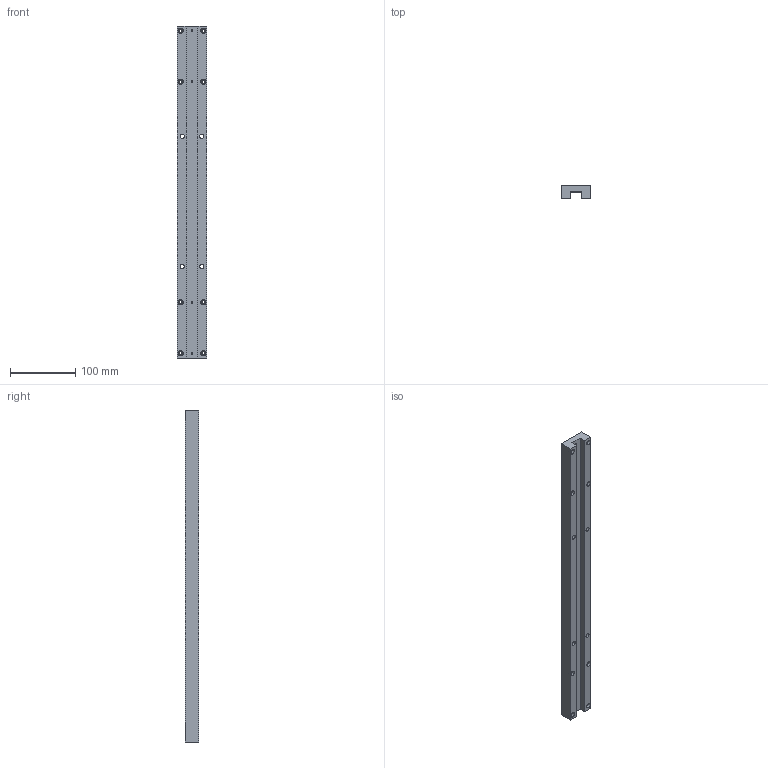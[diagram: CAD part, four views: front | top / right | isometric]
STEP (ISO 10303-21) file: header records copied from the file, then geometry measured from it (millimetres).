
FILE_DESCRIPTION (( 'STEP AP214' ), '1' );
FILE_NAME ('Montageschiene.STEP', '2006-10-26T10:16:42', ( 'Bauer' ), ( 'Micro-Epsilon Optronic' ), 'SwSTEP 2.0', 'SolidWorks 2006104', '' );
FILE_SCHEMA (( 'AUTOMOTIVE_DESIGN' ));
Length unit declared in the file: millimetre
Products named in the file (1): Montageschiene
Bounding box: 45 x 20 x 510 mm (x, y, z)
Volume: 358711.2 mm3; surface area: 82451.2 mm2
Topology: 1 solids, 1 shells, 109 faces, 282 edges, 188 vertices
Faces by surface type: cylinder 56, plane 44, cone 9
Entity records: 3814 total; most frequent: DIRECTION 632, CARTESIAN_POINT 580, ORIENTED_EDGE 564, EDGE_CURVE 282, AXIS2_PLACEMENT_3D 240, VERTEX_POINT 188, EDGE_LOOP 154, LINE 152
